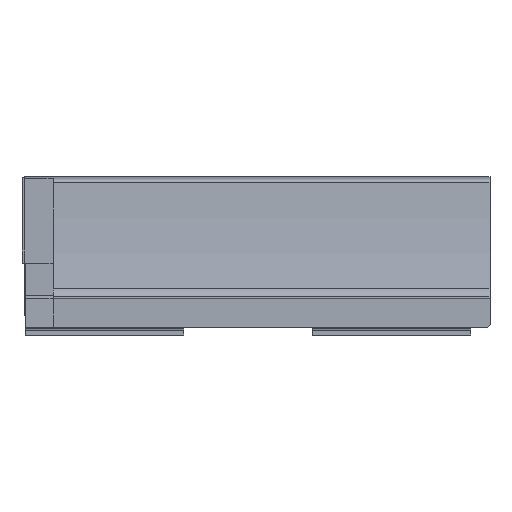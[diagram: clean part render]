
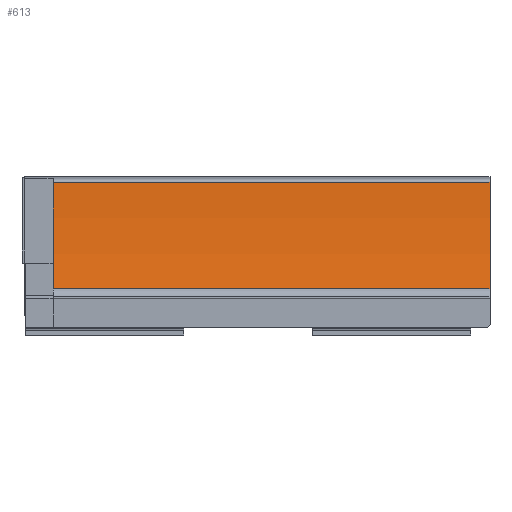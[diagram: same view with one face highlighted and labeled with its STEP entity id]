
A CAD part, left-side view. The second image highlights one B-rep face of the part: STEP entity #613.
In plain terms, the highlighted cylindrical face has radius 350 mm (diameter 700 mm), a partial arc.
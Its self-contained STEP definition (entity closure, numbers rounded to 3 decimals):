
#525 = ORIENTED_EDGE ( 'NONE', *, *, #3433, .F. ) ;
#526 = ORIENTED_EDGE ( 'NONE', *, *, #3106, .T. ) ;
#527 = ORIENTED_EDGE ( 'NONE', *, *, #3228, .T. ) ;
#528 = ORIENTED_EDGE ( 'NONE', *, *, #3168, .F. ) ;
#613 = ADVANCED_FACE ( 'NONE', ( #895 ), #897, .F. ) ;
#706 = EDGE_LOOP ( 'NONE', ( #525, #526, #527, #528 ) ) ;
#895 = FACE_OUTER_BOUND ( 'NONE', #706, .T. ) ;
#897 = CYLINDRICAL_SURFACE ( 'NONE', #3396, 350. ) ;
#993 = VECTOR ( 'NONE', #2433, 1000. ) ;
#998 = LINE ( 'NONE', #2425, #993 ) ;
#1068 = VECTOR ( 'NONE', #2525, 1000. ) ;
#1070 = LINE ( 'NONE', #2518, #1068 ) ;
#1148 = CIRCLE ( 'NONE', #3279, 350. ) ;
#1407 = CIRCLE ( 'NONE', #3283, 350. ) ;
#1570 = VERTEX_POINT ( 'NONE', #2189 ) ;
#1571 = VERTEX_POINT ( 'NONE', #2188 ) ;
#1641 = VERTEX_POINT ( 'NONE', #2255 ) ;
#1642 = VERTEX_POINT ( 'NONE', #2256 ) ;
#2048 = DIRECTION ( 'NONE',  ( 1., 0., 0. ) ) ;
#2049 = DIRECTION ( 'NONE',  ( 0., -1., 0. ) ) ;
#2050 = CARTESIAN_POINT ( 'NONE',  ( -369.736, 265., 58.528 ) ) ;
#2188 = CARTESIAN_POINT ( 'NONE',  ( -19.93, 248.8, 46.864 ) ) ;
#2189 = CARTESIAN_POINT ( 'NONE',  ( -27.279, 248.8, -13.745 ) ) ;
#2255 = CARTESIAN_POINT ( 'NONE',  ( -19.93, 0., 46.864 ) ) ;
#2256 = CARTESIAN_POINT ( 'NONE',  ( -27.279, 0., -13.745 ) ) ;
#2425 = CARTESIAN_POINT ( 'NONE',  ( -27.279, 265., -13.745 ) ) ;
#2433 = DIRECTION ( 'NONE',  ( 0., -1., 0. ) ) ;
#2518 = CARTESIAN_POINT ( 'NONE',  ( -19.93, 265., 46.864 ) ) ;
#2525 = DIRECTION ( 'NONE',  ( 0., -1., 0. ) ) ;
#2599 = CARTESIAN_POINT ( 'NONE',  ( -369.736, 0., 58.528 ) ) ;
#2601 = DIRECTION ( 'NONE',  ( 0., -1., 0. ) ) ;
#2602 = DIRECTION ( 'NONE',  ( -1., 0., 0. ) ) ;
#2900 = CARTESIAN_POINT ( 'NONE',  ( -369.736, 248.8, 58.528 ) ) ;
#2907 = DIRECTION ( 'NONE',  ( 0., -1., 0. ) ) ;
#2908 = DIRECTION ( 'NONE',  ( -1., 0., 0. ) ) ;
#3106 = EDGE_CURVE ( 'NONE', #1570, #1642, #998, .T. ) ;
#3168 = EDGE_CURVE ( 'NONE', #1571, #1641, #1070, .T. ) ;
#3228 = EDGE_CURVE ( 'NONE', #1642, #1641, #1148, .T. ) ;
#3279 = AXIS2_PLACEMENT_3D ( 'NONE', #2599, #2601, #2602 ) ;
#3283 = AXIS2_PLACEMENT_3D ( 'NONE', #2900, #2907, #2908 ) ;
#3396 = AXIS2_PLACEMENT_3D ( 'NONE', #2050, #2049, #2048 ) ;
#3433 = EDGE_CURVE ( 'NONE', #1570, #1571, #1407, .T. ) ;
